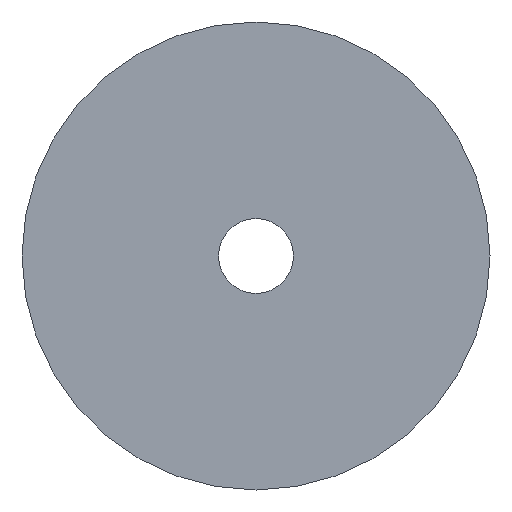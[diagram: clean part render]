
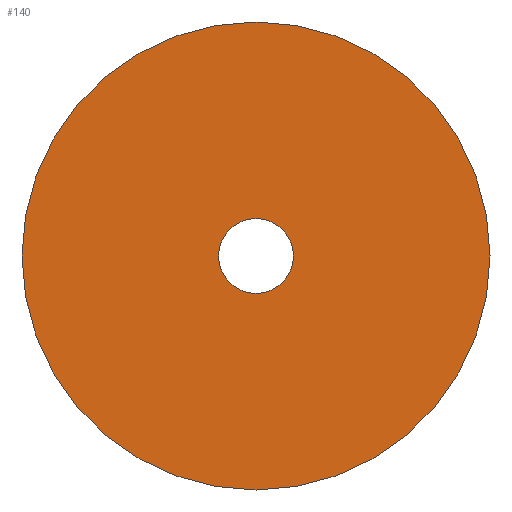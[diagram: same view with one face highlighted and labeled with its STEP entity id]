
A CAD part, front view. The second image highlights one B-rep face of the part: STEP entity #140.
In plain terms, the highlighted planar face has unit normal (0, -1, 0).
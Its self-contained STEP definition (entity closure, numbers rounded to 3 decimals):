
#31 = CYLINDRICAL_SURFACE('',#32,50.);
#32 = AXIS2_PLACEMENT_3D('',#33,#34,#35);
#33 = CARTESIAN_POINT('',(0.,-20.,0.));
#34 = DIRECTION('',(0.,1.,0.));
#35 = DIRECTION('',(0.,-0.,1.));
#56 = VERTEX_POINT('',#57);
#57 = CARTESIAN_POINT('',(0.,-20.,50.));
#78 = EDGE_CURVE('',#56,#56,#79,.T.);
#79 = SURFACE_CURVE('',#80,(#85,#92),.PCURVE_S1.);
#80 = CIRCLE('',#81,50.);
#81 = AXIS2_PLACEMENT_3D('',#82,#83,#84);
#82 = CARTESIAN_POINT('',(0.,-20.,0.));
#83 = DIRECTION('',(0.,1.,0.));
#84 = DIRECTION('',(0.,-0.,1.));
#85 = PCURVE('',#31,#86);
#86 = DEFINITIONAL_REPRESENTATION('',(#87),#91);
#87 = LINE('',#88,#89);
#88 = CARTESIAN_POINT('',(0.,0.));
#89 = VECTOR('',#90,1.);
#90 = DIRECTION('',(1.,0.));
#91 = ( GEOMETRIC_REPRESENTATION_CONTEXT(2) 
PARAMETRIC_REPRESENTATION_CONTEXT() REPRESENTATION_CONTEXT('2D SPACE',''
  ) );
#92 = PCURVE('',#93,#98);
#93 = PLANE('',#94);
#94 = AXIS2_PLACEMENT_3D('',#95,#96,#97);
#95 = CARTESIAN_POINT('',(0.,-20.,0.));
#96 = DIRECTION('',(0.,1.,0.));
#97 = DIRECTION('',(0.,-0.,1.));
#98 = DEFINITIONAL_REPRESENTATION('',(#99),#103);
#99 = CIRCLE('',#100,50.);
#100 = AXIS2_PLACEMENT_2D('',#101,#102);
#101 = CARTESIAN_POINT('',(0.,0.));
#102 = DIRECTION('',(1.,0.));
#103 = ( GEOMETRIC_REPRESENTATION_CONTEXT(2) 
PARAMETRIC_REPRESENTATION_CONTEXT() REPRESENTATION_CONTEXT('2D SPACE',''
  ) );
#129 = CYLINDRICAL_SURFACE('',#130,8.);
#130 = AXIS2_PLACEMENT_3D('',#131,#132,#133);
#131 = CARTESIAN_POINT('',(0.,-21.,0.));
#132 = DIRECTION('',(0.,1.,0.));
#133 = DIRECTION('',(0.,-0.,1.));
#140 = ADVANCED_FACE('',(#141,#144),#93,.F.);
#141 = FACE_BOUND('',#142,.F.);
#142 = EDGE_LOOP('',(#143));
#143 = ORIENTED_EDGE('',*,*,#78,.T.);
#144 = FACE_BOUND('',#145,.F.);
#145 = EDGE_LOOP('',(#146));
#146 = ORIENTED_EDGE('',*,*,#147,.F.);
#147 = EDGE_CURVE('',#148,#148,#150,.T.);
#148 = VERTEX_POINT('',#149);
#149 = CARTESIAN_POINT('',(0.,-20.,8.));
#150 = SURFACE_CURVE('',#151,(#156,#163),.PCURVE_S1.);
#151 = CIRCLE('',#152,8.);
#152 = AXIS2_PLACEMENT_3D('',#153,#154,#155);
#153 = CARTESIAN_POINT('',(0.,-20.,0.));
#154 = DIRECTION('',(0.,1.,0.));
#155 = DIRECTION('',(0.,-0.,1.));
#156 = PCURVE('',#93,#157);
#157 = DEFINITIONAL_REPRESENTATION('',(#158),#162);
#158 = CIRCLE('',#159,8.);
#159 = AXIS2_PLACEMENT_2D('',#160,#161);
#160 = CARTESIAN_POINT('',(0.,0.));
#161 = DIRECTION('',(1.,0.));
#162 = ( GEOMETRIC_REPRESENTATION_CONTEXT(2) 
PARAMETRIC_REPRESENTATION_CONTEXT() REPRESENTATION_CONTEXT('2D SPACE',''
  ) );
#163 = PCURVE('',#129,#164);
#164 = DEFINITIONAL_REPRESENTATION('',(#165),#169);
#165 = LINE('',#166,#167);
#166 = CARTESIAN_POINT('',(0.,1.));
#167 = VECTOR('',#168,1.);
#168 = DIRECTION('',(1.,0.));
#169 = ( GEOMETRIC_REPRESENTATION_CONTEXT(2) 
PARAMETRIC_REPRESENTATION_CONTEXT() REPRESENTATION_CONTEXT('2D SPACE',''
  ) );
